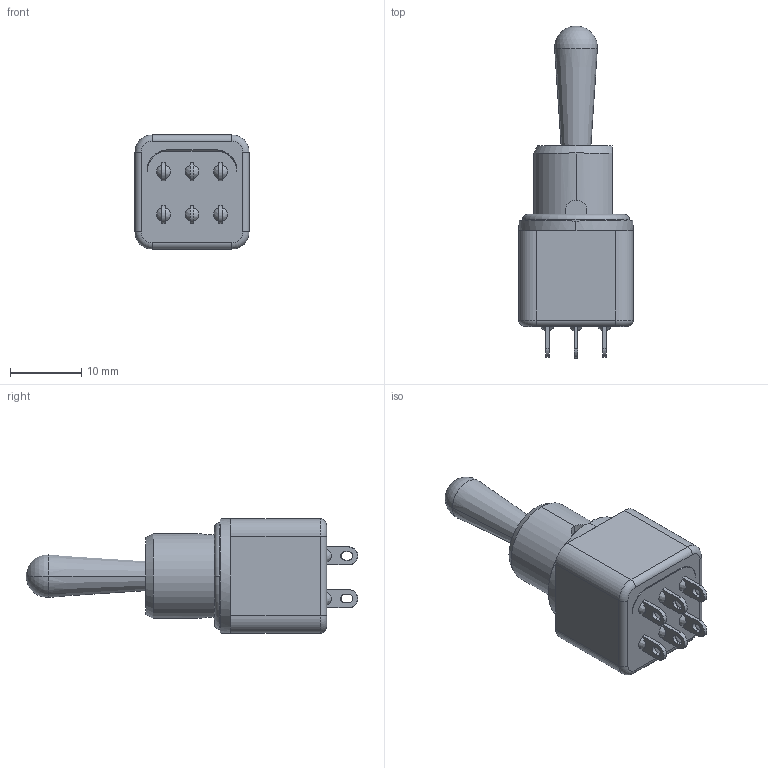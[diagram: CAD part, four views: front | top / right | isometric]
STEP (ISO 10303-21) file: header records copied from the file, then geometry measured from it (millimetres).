
FILE_DESCRIPTION((''),'2;1');
FILE_NAME('12147X778','2011-01-26T',('francis'),(''),'PRO/ENGINEER BY PARAMETRIC TECHNOLOGY CORPORATION, 2009440','PRO/ENGINEER BY PARAMETRIC TECHNOLOGY CORPORATION, 2009440','');
FILE_SCHEMA(('CONFIG_CONTROL_DESIGN'));
Length unit declared in the file: millimetre
Products named in the file (1): 12147X778
Bounding box: 16 x 46.5 x 16 mm (x, y, z)
Volume: 2632.6 mm3; surface area: 5095.1 mm2
Topology: 2 solids, 2 shells, 596 faces, 1656 edges, 1075 vertices
Faces by surface type: plane 394, cylinder 129, cone 27, torus 24, bspline 12, sphere 10
Entity records: 20539 total; most frequent: CARTESIAN_POINT 5151, ORIENTED_EDGE 3300, DIRECTION 3085, EDGE_CURVE 1650, VECTOR 1135, LINE 1135, VERTEX_POINT 1075, AXIS2_PLACEMENT_3D 975
